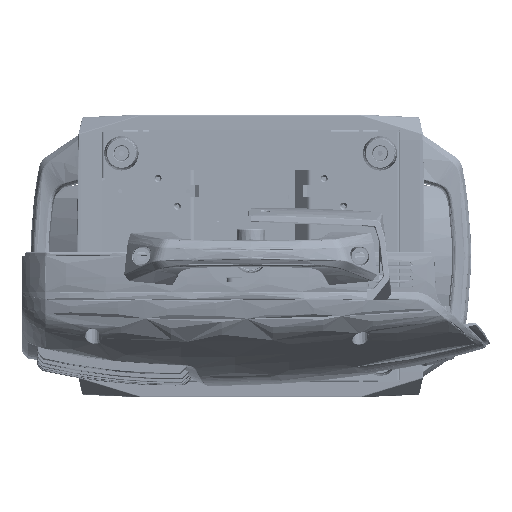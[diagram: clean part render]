
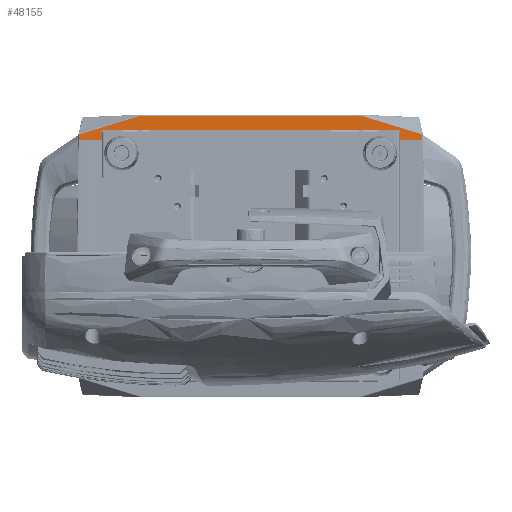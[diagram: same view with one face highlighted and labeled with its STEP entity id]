
A CAD part, front view. The second image highlights one B-rep face of the part: STEP entity #48155.
In plain terms, the highlighted planar face has unit normal (0, -1, 0.026) as drawn and (0.026, 0, -1) by its records, which use the part's own axes.
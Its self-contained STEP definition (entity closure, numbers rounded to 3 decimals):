
#39203=CARTESIAN_POINT('',(106.5,125.5,-37.277));
#39204=VERTEX_POINT('',#39203);
#39211=CARTESIAN_POINT('',(106.5,-125.5,-37.277));
#39212=VERTEX_POINT('',#39211);
#39213=CARTESIAN_POINT('',(106.5,125.5,-37.277));
#39214=DIRECTION('',(-0.,-1.,-0.));
#39215=VECTOR('',#39214,251.);
#39216=LINE('',#39213,#39215);
#39217=EDGE_CURVE('',#39204,#39212,#39216,.T.);
#39251=CARTESIAN_POINT('',(102.434,-144.707,-37.384));
#39252=VERTEX_POINT('',#39251);
#39287=CARTESIAN_POINT('',(118.076,-93.582,-36.974));
#39288=VERTEX_POINT('',#39287);
#39289=CARTESIAN_POINT('',(102.434,-144.707,-37.384));
#39290=DIRECTION('',(0.293,0.956,0.008));
#39291=VECTOR('',#39290,53.465);
#39292=LINE('',#39289,#39291);
#39293=EDGE_CURVE('',#39252,#39288,#39292,.T.);
#39313=CARTESIAN_POINT('',(118.076,93.582,-36.974));
#39314=VERTEX_POINT('',#39313);
#39315=CARTESIAN_POINT('',(102.434,144.707,-37.384));
#39316=VERTEX_POINT('',#39315);
#39317=CARTESIAN_POINT('',(118.076,93.582,-36.974));
#39318=DIRECTION('',(-0.293,0.956,-0.008));
#39319=VECTOR('',#39318,53.465);
#39320=LINE('',#39317,#39319);
#39321=EDGE_CURVE('',#39314,#39316,#39320,.T.);
#40575=CARTESIAN_POINT('',(98.,125.648,-37.5));
#40576=VERTEX_POINT('',#40575);
#40577=CARTESIAN_POINT('',(98.,125.648,-37.5));
#40578=DIRECTION('',(1.,-0.017,0.026));
#40579=VECTOR('',#40578,8.504);
#40580=LINE('',#40577,#40579);
#40581=EDGE_CURVE('',#40576,#39204,#40580,.T.);
#46428=CARTESIAN_POINT('',(98.,-125.648,-37.5));
#46429=VERTEX_POINT('',#46428);
#46430=CARTESIAN_POINT('',(106.5,-125.5,-37.277));
#46431=DIRECTION('',(-1.,-0.017,-0.026));
#46432=VECTOR('',#46431,8.504);
#46433=LINE('',#46430,#46432);
#46434=EDGE_CURVE('',#39212,#46429,#46433,.T.);
#48030=CARTESIAN_POINT('',(118.118,-93.283,-36.973));
#48031=VERTEX_POINT('',#48030);
#48092=CARTESIAN_POINT('',(118.076,-93.582,-36.974));
#48093=CARTESIAN_POINT('',(118.118,-93.442,-36.973));
#48094=CARTESIAN_POINT('',(118.118,-93.283,-36.973));
#48095=B_SPLINE_CURVE_WITH_KNOTS('',2,(#48092,#48093,#48094),.UNSPECIFIED.,.F.,.F.,(3,3),(0.,1.),.UNSPECIFIED.);
#48096=EDGE_CURVE('',#39288,#48031,#48095,.T.);
#48101=CARTESIAN_POINT('',(119.209,-188.4,-36.945));
#48102=DIRECTION('',(-0.026,0.,1.));
#48103=DIRECTION('',(1.,0.,0.026));
#48104=AXIS2_PLACEMENT_3D('',#48101,#48102,#48103);
#48105=PLANE('',#48104);
#48106=CARTESIAN_POINT('',(118.118,93.283,-36.973));
#48107=VERTEX_POINT('',#48106);
#48108=CARTESIAN_POINT('',(118.118,93.283,-36.973));
#48109=CARTESIAN_POINT('',(118.118,93.442,-36.973));
#48110=CARTESIAN_POINT('',(118.076,93.582,-36.974));
#48111=B_SPLINE_CURVE_WITH_KNOTS('',2,(#48108,#48109,#48110),.UNSPECIFIED.,.F.,.F.,(3,3),(0.,1.),.UNSPECIFIED.);
#48112=EDGE_CURVE('',#48107,#39314,#48111,.T.);
#48113=ORIENTED_EDGE('',*,*,#48112,.F.);
#48114=CARTESIAN_POINT('',(118.118,-93.283,-36.973));
#48115=DIRECTION('',(0.,1.,0.));
#48116=VECTOR('',#48115,186.566);
#48117=LINE('',#48114,#48116);
#48118=EDGE_CURVE('',#48031,#48107,#48117,.T.);
#48119=ORIENTED_EDGE('',*,*,#48118,.F.);
#48120=ORIENTED_EDGE('',*,*,#48096,.F.);
#48121=ORIENTED_EDGE('',*,*,#39293,.F.);
#48122=CARTESIAN_POINT('',(98.,-144.774,-37.5));
#48123=VERTEX_POINT('',#48122);
#48124=CARTESIAN_POINT('',(98.,-144.774,-37.5));
#48125=CARTESIAN_POINT('',(102.434,-144.707,-37.384));
#48126=B_SPLINE_CURVE_WITH_KNOTS('',1,(#48124,#48125),.UNSPECIFIED.,.F.,.F.,(2,2),(0.,1.),.UNSPECIFIED.);
#48127=EDGE_CURVE('',#48123,#39252,#48126,.T.);
#48128=ORIENTED_EDGE('',*,*,#48127,.F.);
#48129=CARTESIAN_POINT('',(98.,-125.648,-37.5));
#48130=DIRECTION('',(-0.,-1.,-0.));
#48131=VECTOR('',#48130,19.126);
#48132=LINE('',#48129,#48131);
#48133=EDGE_CURVE('',#46429,#48123,#48132,.T.);
#48134=ORIENTED_EDGE('',*,*,#48133,.F.);
#48135=ORIENTED_EDGE('',*,*,#46434,.F.);
#48136=ORIENTED_EDGE('',*,*,#39217,.F.);
#48137=ORIENTED_EDGE('',*,*,#40581,.F.);
#48138=CARTESIAN_POINT('',(98.,144.774,-37.5));
#48139=VERTEX_POINT('',#48138);
#48140=CARTESIAN_POINT('',(98.,125.648,-37.5));
#48141=DIRECTION('',(0.,1.,0.));
#48142=VECTOR('',#48141,19.126);
#48143=LINE('',#48140,#48142);
#48144=EDGE_CURVE('',#40576,#48139,#48143,.T.);
#48145=ORIENTED_EDGE('',*,*,#48144,.T.);
#48146=CARTESIAN_POINT('',(102.434,144.707,-37.384));
#48147=DIRECTION('',(-1.,0.015,-0.026));
#48148=VECTOR('',#48147,4.436);
#48149=LINE('',#48146,#48148);
#48150=EDGE_CURVE('',#39316,#48139,#48149,.T.);
#48151=ORIENTED_EDGE('',*,*,#48150,.F.);
#48152=ORIENTED_EDGE('',*,*,#39321,.F.);
#48153=EDGE_LOOP('',(#48113,#48119,#48120,#48121,#48128,#48134,#48135,#48136,#48137,#48145,#48151,#48152));
#48154=FACE_BOUND('',#48153,.T.);
#48155=ADVANCED_FACE('',(#48154),#48105,.F.);
